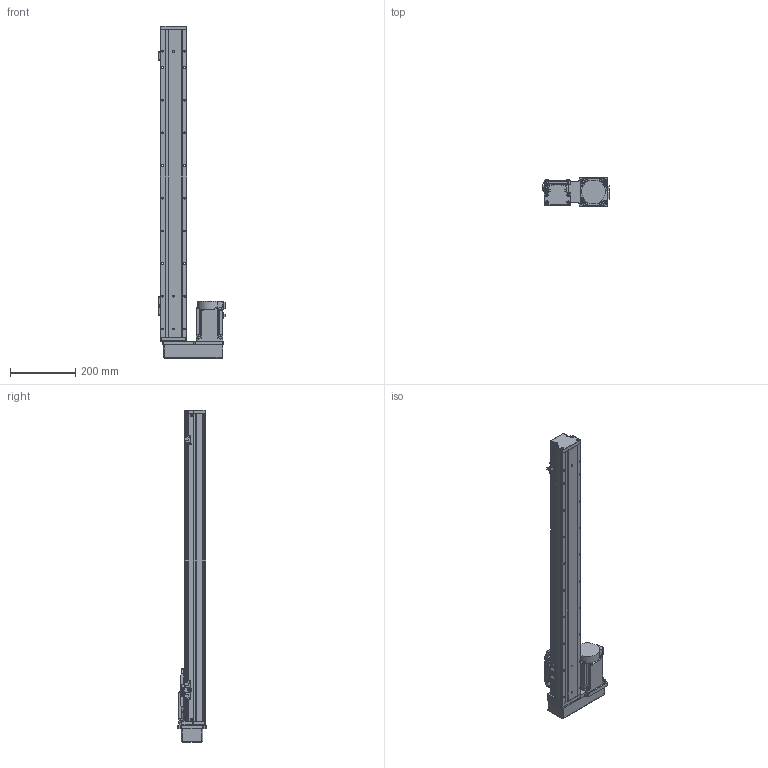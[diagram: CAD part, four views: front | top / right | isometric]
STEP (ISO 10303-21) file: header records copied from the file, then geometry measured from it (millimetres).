
FILE_DESCRIPTION (( 'STEP AP203' ), '1' );
FILE_NAME ('GTH8-750-BR-M75-C4.step', '2023-02-14T02:34:44', ( '微软用户' ), ( '微软中国' ), 'SwSTEP 2.0', 'SolidWorks 2020', '' );
FILE_SCHEMA (( 'CONFIG_CONTROL_DESIGN' ));
Length unit declared in the file: millimetre
Products named in the file (18): GTH80-022; BTH-M3X5X6; GTH80-001_750; GBT 70.1-M3℅6; CTHA86-015-3_CTHA86-015-4; GTH80-003; GBT 70.1-M4×16; CTHA86-035; GTH80-004; GTH80-028; hg-kn73j_-s100; GTH80-006; GTH50-024; GTH8-750-BR-M75-C4; GTH80-013; GTH50-023; GBT 70.3-M3℅6; GBT96.1-2002 3×0.8
Assembly tree (57 placements, depth 2):
  GTH8-750-BR-M75-C4
    GTH80-001_750
    GTH80-003
    GTH80-004
    GTH80-006
    GTH80-013
    GBT 70.3-M3℅6  x4
    GTH80-022
    GBT 70.1-M3℅6  x14
    GBT 70.1-M4×16  x8
    GTH80-028  x2
    GTH50-024  x3
    GTH50-023  x3
    GBT96.1-2002 3×0.8  x6
    BTH-M3X5X6  x8
    CTHA86-015-3_CTHA86-015-4
    CTHA86-035
    hg-kn73j_-s100
Bounding box: 204.7 x 87 x 1016 mm (x, y, z)
Volume: 5614771.3 mm3; surface area: 556311.3 mm2
Topology: 59 solids, 59 shells, 2203 faces, 5118 edges, 3136 vertices
Faces by surface type: plane 1153, cylinder 635, cone 243, torus 158, sphere 12, bspline 2
Entity records: 39884 total; most frequent: CARTESIAN_POINT 6695, DIRECTION 6585, ORIENTED_EDGE 6046, EDGE_CURVE 3023, AXIS2_PLACEMENT_3D 2326, LINE 1933, VECTOR 1933, VERTEX_POINT 1911
